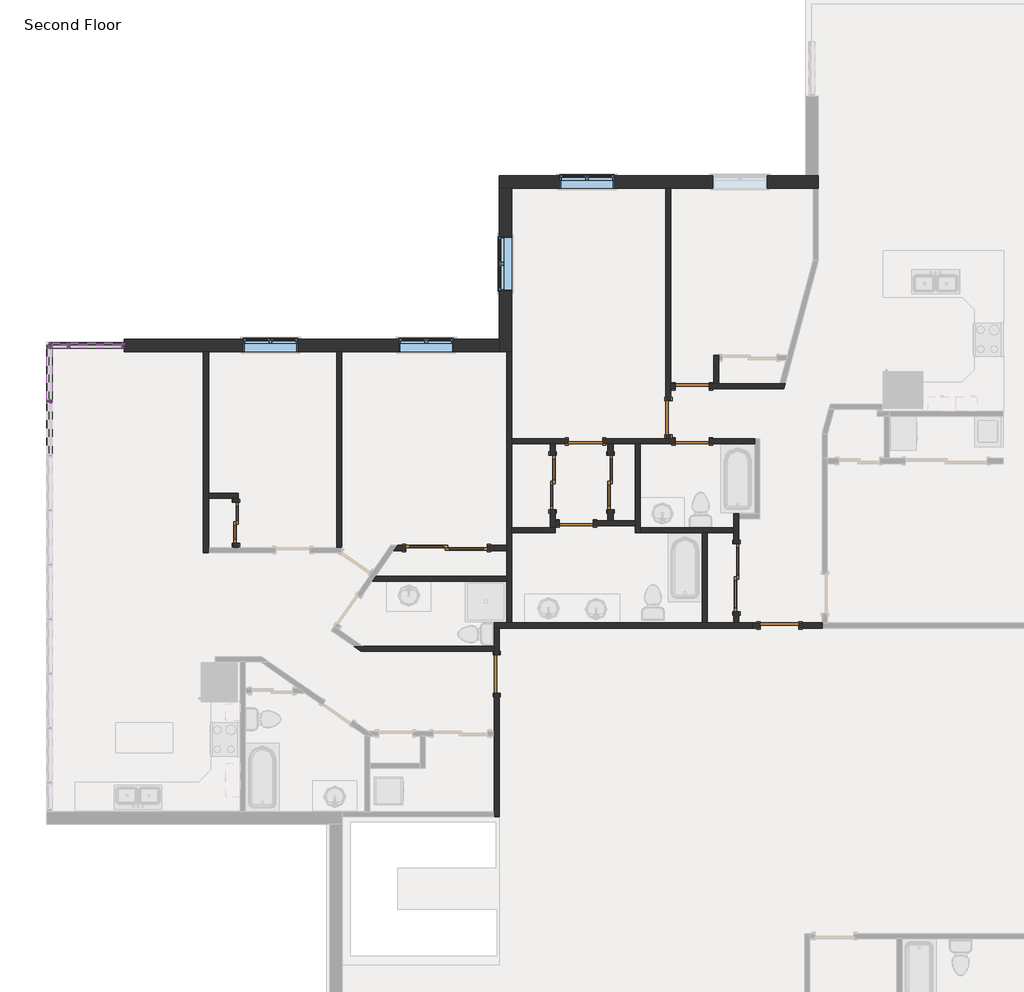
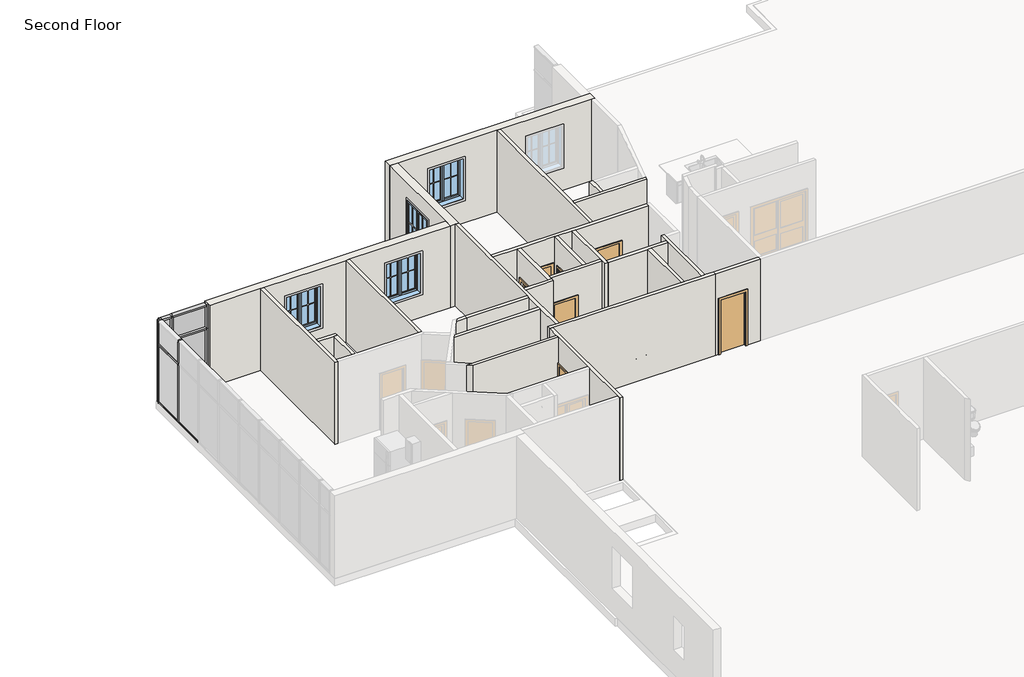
# One storey, part 8 of 17: 27 walls, 19 members, 12 doors, 4 plates, 4 windows.
"""IFC4 building model written with IfcOpenShell, lengths in millimetres."""

from ifc_helpers import new_model, si_unit, frame, origin, place, context, project, spatial, polyline, outline, extrude, faceted_brep, transform, mapped, element, save
from components import door_d8f5dbb5, door_f2b275c1, door_825b8444, door_c29894e6, door_88c23cd7, door_900f836f, door_2e7ec8be, door_caaf2a11, rectangular_mullion_rectangular_mullion_1_fa3625a1, rectangular_mullion_rectangular_mullion_1_7cbf0b94, rectangular_mullion_rectangular_mullion_1_6186cc23, rectangular_mullion_rectangular_mullion_1_049a2e78, rectangular_mullion_rectangular_mullion_1_a50b3cda, rectangular_mullion_rectangular_mullion_1_5cd4c5ac, rectangular_mullion_rectangular_mullion_1_64aff199, rectangular_mullion_rectangular_mullion_1_b6c962ab, system_panel_glazed_0ed27d1d, system_panel_glazed_134bacdb, system_panel_glazed_a3383988, system_panel_glazed_d9a092fd, window_33528cc2

model = new_model("IFC4")

# Units and contexts
model_context = context("Model", 3, world=origin())
ifc_project = project(units=[si_unit("LENGTHUNIT", "METRE", prefix="MILLI")], contexts=[model_context])

# Site, building, storey
site = spatial("IfcSite", under=ifc_project)
building = spatial("IfcBuilding", under=site)
storey = spatial("IfcBuildingStorey", under=building, Name="Second Floor", Elevation=3048.0)

# Doors
placement = place(None, origin())
door_shape = door_d8f5dbb5(model_context)
element("IfcDoor", 1, ObjectType="Single-Flush : 30\" x 80\"", at=placement, inside=storey, context=model_context, shape_type="MappedRepresentation", body=[
    mapped(door_shape, transform((12409.9063982, 4588.2091714, 3048.0), x_axis=(-1.0, 0.0, 0.0), y_axis=(0.0, -1.0, 0.0), z_axis=(0.0, 0.0, 1.0))),
])
door_2_shape = door_f2b275c1(model_context)
element("IfcDoor", 2, ObjectType="Single-Flush : 30\" x 80\"", at=placement, inside=storey, context=model_context, shape_type="MappedRepresentation", body=[
    mapped(door_2_shape, transform((15004.9379006, 7654.5108545, 3048.0), x_axis=(-1.0, 0.0, 0.0), y_axis=(0.0, -1.0, 0.0), z_axis=(0.0, 0.0, 1.0))),
])
element("IfcDoor", 3, ObjectType="Single-Flush : 30\" x 80\"", at=placement, inside=storey, context=model_context, shape_type="MappedRepresentation", body=[
    mapped(door_2_shape, transform((14468.0674417, 6956.8936958, 3048.0), x_axis=(0.0, -1.0, 0.0), y_axis=(1.0, 0.0, 0.0), z_axis=(0.0, 0.0, 1.0))),
])
element("IfcDoor", 4, ObjectType="Single-Flush : 30\" x 80\"", at=placement, inside=storey, context=model_context, shape_type="MappedRepresentation", body=[
    mapped(door_2_shape, transform((12612.1535557, 6423.4936958, 3048.0), x_axis=(1.0, 0.0, 0.0), y_axis=(0.0, 1.0, 0.0), z_axis=(0.0, 0.0, 1.0))),
])
element("IfcDoor", 5, ObjectType="Single-Flush : 30\" x 80\"", at=placement, inside=storey, context=model_context, shape_type="MappedRepresentation", body=[
    mapped(door_2_shape, transform((15001.4674417, 6423.4936958, 3048.0), x_axis=(1.0, 0.0, 0.0), y_axis=(0.0, 1.0, 0.0), z_axis=(0.0, 0.0, 1.0))),
])
door_3_shape = door_825b8444(model_context)
element("IfcDoor", 6, ObjectType="Single-Flush : 34\" x 80\"", at=placement, inside=storey, context=model_context, shape_type="MappedRepresentation", body=[
    mapped(door_3_shape, transform((16954.6993195, 2302.2091714, 3048.0), x_axis=(-1.0, 0.0, 0.0), y_axis=(0.0, -1.0, 0.0), z_axis=(0.0, 0.0, 1.0))),
])
door_4_shape = door_c29894e6(model_context)
element("IfcDoor", 7, ObjectType="Single-Flush : 34\" x 80\"", at=placement, inside=storey, context=model_context, shape_type="MappedRepresentation", body=[
    mapped(door_4_shape, transform((10626.433999, 1220.4185137, 3048.0), x_axis=(0.0, 1.0, 0.0), y_axis=(-1.0, 0.0, 0.0), z_axis=(0.0, 0.0, 1.0))),
])
door_5_shape = door_88c23cd7(model_context)
element("IfcDoor", 8, ObjectType="Sliding-Closet : 36\" x 80\"", at=placement, inside=storey, context=model_context, shape_type="MappedRepresentation", body=[
    mapped(door_5_shape, transform((4658.4503923, 4599.0838873, 3048.0), x_axis=(0.0, -1.0, 0.0), y_axis=(1.0, 0.0, 0.0), z_axis=(0.0, 0.0, 1.0))),
])
door_6_shape = door_900f836f(model_context)
element("IfcDoor", 9, ObjectType="Sliding-Closet : 48\" x 80\"", at=placement, inside=storey, context=model_context, shape_type="MappedRepresentation", body=[
    mapped(door_6_shape, transform((11749.5063982, 5505.8514336, 3048.0), x_axis=(0.0, -1.0, 0.0), y_axis=(1.0, 0.0, 0.0), z_axis=(0.0, 0.0, 1.0))),
])
element("IfcDoor", 10, ObjectType="Sliding-Closet : 48\" x 80\"", at=placement, inside=storey, context=model_context, shape_type="MappedRepresentation", body=[
    mapped(door_6_shape, transform((13297.9535557, 5505.8514336, 3048.0), x_axis=(0.0, 1.0, 0.0), y_axis=(-1.0, 0.0, 0.0), z_axis=(0.0, 0.0, 1.0))),
])
door_7_shape = door_2e7ec8be(model_context)
element("IfcDoor", 11, ObjectType="Sliding-Closet : 60\" x 80\"", at=placement, inside=storey, context=model_context, shape_type="MappedRepresentation", body=[
    mapped(door_7_shape, transform((15862.4993195, 3369.0091714, 3048.0), x_axis=(0.0, -1.0, 0.0), y_axis=(1.0, 0.0, 0.0), z_axis=(0.0, 0.0, 1.0))),
])
door_8_shape = door_caaf2a11(model_context)
element("IfcDoor", 12, ObjectType="Sliding-Closet : 72\" x 80\"", at=placement, inside=storey, context=model_context, shape_type="MappedRepresentation", body=[
    mapped(door_8_shape, transform((9498.6267396, 3910.2829071, 3048.0), x_axis=(1.0, 0.0, 0.0), y_axis=(0.0, 1.0, 0.0), z_axis=(0.0, 0.0, 1.0))),
])

# Members
rectangular_mullion_rectangular_mullion_1_shape = rectangular_mullion_rectangular_mullion_1_fa3625a1(model_context)
element("IfcMember", 13, ObjectType="Rectangular Mullion : Rectangular Mullion 1", at=placement, inside=storey, context=model_context, shape_type="MappedRepresentation", body=[
    mapped(rectangular_mullion_rectangular_mullion_1_shape, transform((1069.5831156, 8571.3427849, 6096.0), x_axis=(0.0, 0.0, 1.0), y_axis=(0.0, 1.0, 0.0), z_axis=(-1.0, 0.0, 0.0))),
])
element("IfcMember", 14, ObjectType="Rectangular Mullion : Rectangular Mullion 1", at=placement, inside=storey, context=model_context, shape_type="MappedRepresentation", body=[
    mapped(rectangular_mullion_rectangular_mullion_1_shape, transform((2225.2831159, 8571.3427849, 3048.0), x_axis=(0.0, 0.0, -1.0), y_axis=(0.0, 1.0, 0.0), z_axis=(1.0, 0.0, 0.0))),
])
element("IfcMember", 15, ObjectType="Rectangular Mullion : Rectangular Mullion 1", at=placement, inside=storey, context=model_context, shape_type="MappedRepresentation", body=[
    mapped(rectangular_mullion_rectangular_mullion_1_shape, transform((612.3831159, 8507.8427849, 3048.0), x_axis=(0.0, 0.0, -1.0), y_axis=(-1.0, 0.0, 0.0), z_axis=(0.0, 1.0, 0.0))),
])
element("IfcMember", 16, ObjectType="Rectangular Mullion : Rectangular Mullion 1", at=placement, inside=storey, context=model_context, shape_type="MappedRepresentation", body=[
    mapped(rectangular_mullion_rectangular_mullion_1_shape, transform((612.3831159, 7288.6427846, 3048.0), x_axis=(0.0, 0.0, -1.0), y_axis=(-1.0, 0.0, 0.0), z_axis=(0.0, 1.0, 0.0))),
])
rectangular_mullion_rectangular_mullion_1_2_shape = rectangular_mullion_rectangular_mullion_1_7cbf0b94(model_context)
element("IfcMember", 17, ObjectType="Rectangular Mullion : Rectangular Mullion 1", at=placement, inside=storey, context=model_context, shape_type="MappedRepresentation", body=[
    mapped(rectangular_mullion_rectangular_mullion_1_2_shape, transform((1069.5831156, 8571.3427849, 5213.35), x_axis=(0.0, 0.0, 1.0), y_axis=(0.0, 1.0, 0.0), z_axis=(-1.0, 0.0, 0.0))),
])
element("IfcMember", 18, ObjectType="Rectangular Mullion : Rectangular Mullion 1", at=placement, inside=storey, context=model_context, shape_type="MappedRepresentation", body=[
    mapped(rectangular_mullion_rectangular_mullion_1_2_shape, transform((612.3831159, 7352.1427846, 5213.35), x_axis=(0.0, 0.0, 1.0), y_axis=(-1.0, 0.0, 0.0), z_axis=(0.0, -1.0, 0.0))),
])
rectangular_mullion_rectangular_mullion_1_3_shape = rectangular_mullion_rectangular_mullion_1_6186cc23(model_context)
element("IfcMember", 19, ObjectType="Rectangular Mullion : Rectangular Mullion 1", at=placement, inside=storey, context=model_context, shape_type="MappedRepresentation", body=[
    mapped(rectangular_mullion_rectangular_mullion_1_3_shape, transform((1037.8331156, 8571.3427849, 3048.0), x_axis=(-1.0, 0.0, 0.0), y_axis=(0.0, 1.0, 0.0), z_axis=(0.0, 0.0, -1.0))),
])
element("IfcMember", 20, ObjectType="Rectangular Mullion : Rectangular Mullion 1", at=placement, inside=storey, context=model_context, shape_type="MappedRepresentation", body=[
    mapped(rectangular_mullion_rectangular_mullion_1_3_shape, transform((612.3831159, 7320.3927846, 3048.0), x_axis=(0.0, -1.0, 0.0), y_axis=(-1.0, 0.0, 0.0), z_axis=(0.0, 0.0, -1.0))),
])
rectangular_mullion_rectangular_mullion_1_4_shape = rectangular_mullion_rectangular_mullion_1_049a2e78(model_context)
element("IfcMember", 21, ObjectType="Rectangular Mullion : Rectangular Mullion 1", at=placement, inside=storey, context=model_context, shape_type="MappedRepresentation", body=[
    mapped(rectangular_mullion_rectangular_mullion_1_4_shape, transform((1037.8331156, 8571.3427849, 5213.35), x_axis=(-1.0, 0.0, 0.0), y_axis=(0.0, 1.0, 0.0), z_axis=(0.0, 0.0, -1.0))),
])
element("IfcMember", 22, ObjectType="Rectangular Mullion : Rectangular Mullion 1", at=placement, inside=storey, context=model_context, shape_type="MappedRepresentation", body=[
    mapped(rectangular_mullion_rectangular_mullion_1_4_shape, transform((612.3831159, 7320.3927846, 5213.35), x_axis=(0.0, -1.0, 0.0), y_axis=(-1.0, 0.0, 0.0), z_axis=(0.0, 0.0, -1.0))),
])
rectangular_mullion_rectangular_mullion_1_5_shape = rectangular_mullion_rectangular_mullion_1_a50b3cda(model_context)
element("IfcMember", 23, ObjectType="Rectangular Mullion : Rectangular Mullion 1", at=placement, inside=storey, context=model_context, shape_type="MappedRepresentation", body=[
    mapped(rectangular_mullion_rectangular_mullion_1_5_shape, transform((612.3831159, 8571.3427849, 3048.0), x_axis=(-1.0, 0.0, 0.0), y_axis=(0.0, 1.0, 0.0), z_axis=(0.0, 0.0, -1.0))),
])
rectangular_mullion_rectangular_mullion_1_6_shape = rectangular_mullion_rectangular_mullion_1_5cd4c5ac(model_context)
element("IfcMember", 24, ObjectType="Rectangular Mullion : Rectangular Mullion 1", at=placement, inside=storey, context=model_context, shape_type="MappedRepresentation", body=[
    mapped(rectangular_mullion_rectangular_mullion_1_6_shape, transform((612.3831159, 8571.3427849, 5213.35), x_axis=(-1.0, 0.0, 0.0), y_axis=(0.0, 1.0, 0.0), z_axis=(0.0, 0.0, -1.0))),
])
element("IfcMember", 25, ObjectType="Rectangular Mullion : Rectangular Mullion 1", at=placement, inside=storey, context=model_context, shape_type="MappedRepresentation", body=[
    mapped(rectangular_mullion_rectangular_mullion_1_6_shape, transform((2288.7831159, 8571.3427849, 6096.0), x_axis=(1.0, 0.0, 0.0), y_axis=(0.0, 1.0, 0.0), z_axis=(0.0, 0.0, 1.0))),
])
element("IfcMember", 26, ObjectType="Rectangular Mullion : Rectangular Mullion 1", at=placement, inside=storey, context=model_context, shape_type="MappedRepresentation", body=[
    mapped(rectangular_mullion_rectangular_mullion_1_6_shape, transform((612.3831159, 8571.3427849, 6096.0), x_axis=(0.0, 1.0, 0.0), y_axis=(-1.0, 0.0, 0.0), z_axis=(0.0, 0.0, 1.0))),
])
element("IfcMember", 27, ObjectType="Rectangular Mullion : Rectangular Mullion 1", at=placement, inside=storey, context=model_context, shape_type="MappedRepresentation", body=[
    mapped(rectangular_mullion_rectangular_mullion_1_5_shape, transform((2288.7831159, 8571.3427849, 5213.35), x_axis=(1.0, 0.0, 0.0), y_axis=(0.0, 1.0, 0.0), z_axis=(0.0, 0.0, 1.0))),
])
element("IfcMember", 28, ObjectType="Rectangular Mullion : Rectangular Mullion 1", at=placement, inside=storey, context=model_context, shape_type="MappedRepresentation", body=[
    mapped(rectangular_mullion_rectangular_mullion_1_5_shape, transform((612.3831159, 8571.3427849, 5213.35), x_axis=(0.0, 1.0, 0.0), y_axis=(-1.0, 0.0, 0.0), z_axis=(0.0, 0.0, 1.0))),
])
rectangular_mullion_rectangular_mullion_1_7_shape = rectangular_mullion_rectangular_mullion_1_64aff199(model_context)
element("IfcMember", 29, ObjectType="Rectangular Mullion : Rectangular Mullion 1", at=placement, inside=storey, context=model_context, shape_type="MappedRepresentation", body=[
    mapped(rectangular_mullion_rectangular_mullion_1_7_shape, transform((675.8831159, 8571.3427849, 6096.0), x_axis=(0.0, 0.0, 1.0), y_axis=(0.0, 1.0, 0.0), z_axis=(-1.0, 0.0, 0.0))),
])
element("IfcMember", 30, ObjectType="Rectangular Mullion : Rectangular Mullion 1", at=placement, inside=storey, context=model_context, shape_type="MappedRepresentation", body=[
    mapped(rectangular_mullion_rectangular_mullion_1_7_shape, transform((1006.0831156, 8571.3427849, 3048.0), x_axis=(0.0, 0.0, -1.0), y_axis=(0.0, 1.0, 0.0), z_axis=(1.0, 0.0, 0.0))),
])
rectangular_mullion_rectangular_mullion_1_8_shape = rectangular_mullion_rectangular_mullion_1_b6c962ab(model_context)
element("IfcMember", 31, ObjectType="Rectangular Mullion : Rectangular Mullion 1", at=placement, inside=storey, context=model_context, shape_type="MappedRepresentation", body=[
    mapped(rectangular_mullion_rectangular_mullion_1_8_shape, transform((675.8831159, 8571.3427849, 5213.35), x_axis=(0.0, 0.0, 1.0), y_axis=(0.0, 1.0, 0.0), z_axis=(-1.0, 0.0, 0.0))),
])

# Plates
system_panel_glazed_shape = system_panel_glazed_0ed27d1d(model_context)
element("IfcPlate", 32, ObjectType="System Panel : Glazed", at=placement, inside=storey, context=model_context, shape_type="MappedRepresentation", body=[
    mapped(system_panel_glazed_shape, transform((1647.4331158, 8571.3427849, 3111.5), x_axis=(-1.0, 0.0, 0.0), y_axis=(0.0, -1.0, 0.0), z_axis=(0.0, 0.0, 1.0))),
])
system_panel_glazed_2_shape = system_panel_glazed_134bacdb(model_context)
element("IfcPlate", 33, ObjectType="System Panel : Glazed", at=placement, inside=storey, context=model_context, shape_type="MappedRepresentation", body=[
    mapped(system_panel_glazed_2_shape, transform((1647.4331158, 8571.3427849, 5245.1), x_axis=(-1.0, 0.0, 0.0), y_axis=(0.0, -1.0, 0.0), z_axis=(0.0, 0.0, 1.0))),
])
system_panel_glazed_3_shape = system_panel_glazed_a3383988(model_context)
element("IfcPlate", 34, ObjectType="System Panel : Glazed", at=placement, inside=storey, context=model_context, shape_type="MappedRepresentation", body=[
    mapped(system_panel_glazed_3_shape, transform((840.9831158, 8571.3427849, 3111.5), x_axis=(-1.0, 0.0, 0.0), y_axis=(0.0, -1.0, 0.0), z_axis=(0.0, 0.0, 1.0))),
])
system_panel_glazed_4_shape = system_panel_glazed_d9a092fd(model_context)
element("IfcPlate", 35, ObjectType="System Panel : Glazed", at=placement, inside=storey, context=model_context, shape_type="MappedRepresentation", body=[
    mapped(system_panel_glazed_4_shape, transform((840.9831158, 8571.3427849, 5245.1), x_axis=(-1.0, 0.0, 0.0), y_axis=(0.0, -1.0, 0.0), z_axis=(0.0, 0.0, 1.0))),
])

# Walls
element("IfcWall", 36, ObjectType="Exterior - Brick on Wood Stud", at=placement, inside=storey, context=model_context, shape_type="Brep", body=[
    faceted_brep([(17820.1121608, 12370.2302849, 3048.0), (17537.5371608, 12370.2302849, 3048.0), (10681.8956159, 12370.2302849, 3048.0), (10681.8956159, 12370.2302849, 6096.0), (17537.5371608, 12370.2302849, 6096.0), (17820.1121608, 12370.2302849, 6096.0), (13255.2252788, 12370.2302849, 5486.4), (12036.0252788, 12370.2302849, 5486.4), (12036.0252788, 12370.2302849, 3962.4), (13255.2252788, 12370.2302849, 3962.4), (16683.0460512, 12370.2302849, 5486.4), (15463.8460512, 12370.2302849, 5486.4), (15463.8460512, 12370.2302849, 3962.4), (16683.0460512, 12370.2302849, 3962.4), (17820.1121608, 12087.6552849, 3048.0), (17820.1121608, 12087.6552849, 6096.0), (17705.8121608, 12087.6552849, 6096.0), (14525.2174417, 12087.6552849, 6096.0), (14410.9174417, 12087.6552849, 6096.0), (10964.4706159, 12087.6552849, 6096.0), (10681.8956159, 12087.6552849, 6096.0), (10681.8956159, 12087.6552849, 3048.0), (10964.4706159, 12087.6552849, 3048.0), (14410.9174417, 12087.6552849, 3048.0), (14525.2174417, 12087.6552849, 3048.0), (17705.8121608, 12087.6552849, 3048.0), (13255.2252788, 12087.6552849, 5486.4), (13255.2252788, 12087.6552849, 3962.4), (12036.0252788, 12087.6552849, 3962.4), (12036.0252788, 12087.6552849, 5486.4), (16683.0460512, 12087.6552849, 5486.4), (16683.0460512, 12087.6552849, 3962.4), (15463.8460512, 12087.6552849, 3962.4), (15463.8460512, 12087.6552849, 5486.4)], [[[0, 1, 2, 3, 4, 5], [6, 7, 8, 9], [10, 11, 12, 13]], [[14, 15, 16, 17, 18, 19, 20, 21, 22, 23, 24, 25], [26, 27, 28, 29], [30, 31, 32, 33]], [[2, 1, 0, 14, 25, 24, 23, 22, 21]], [[5, 4, 3, 20, 19, 18, 17, 16, 15]], [[27, 26, 6, 9]], [[28, 27, 9, 8]], [[29, 28, 8, 7]], [[26, 29, 7, 6]], [[31, 30, 10, 13]], [[32, 31, 13, 12]], [[33, 32, 12, 11]], [[30, 33, 11, 10]], [[0, 5, 15, 14]], [[3, 2, 21, 20]]]),
])
element("IfcWall", 37, ObjectType="Exterior - Brick on Wood Stud", at=placement, inside=storey, context=model_context, shape_type="Brep", body=[
    faceted_brep([(10681.8956159, 12087.6552849, 3048.0), (10681.8956159, 8712.6302849, 3048.0), (10681.8956159, 8430.0552849, 3048.0), (10681.8956159, 8430.0552849, 6096.0), (10681.8956159, 8712.6302849, 6096.0), (10681.8956159, 12087.6552849, 6096.0), (10681.8956159, 11009.7427849, 5486.4), (10681.8956159, 9790.5427849, 5486.4), (10681.8956159, 9790.5427849, 3962.4), (10681.8956159, 11009.7427849, 3962.4), (10964.4706159, 12087.6552849, 3048.0), (10964.4706159, 12087.6552849, 6096.0), (10964.4706159, 8430.0552849, 6096.0), (10964.4706159, 8430.0552849, 3048.0), (10964.4706159, 11009.7427849, 5486.4), (10964.4706159, 11009.7427849, 3962.4), (10964.4706159, 9790.5427849, 3962.4), (10964.4706159, 9790.5427849, 5486.4), (10850.1706159, 8430.0552849, 3048.0), (10850.1706159, 8430.0552849, 6096.0)], [[[0, 1, 2, 3, 4, 5], [6, 7, 8, 9]], [[10, 11, 12, 13], [14, 15, 16, 17]], [[2, 1, 0, 10, 13, 18]], [[5, 4, 3, 19, 12, 11]], [[15, 14, 6, 9]], [[16, 15, 9, 8]], [[17, 16, 8, 7]], [[14, 17, 7, 6]], [[3, 2, 18, 13, 12, 19]], [[0, 5, 11, 10]]]),
])
element("IfcWall", 38, ObjectType="Exterior - Brick on Wood Stud", at=placement, inside=storey, context=model_context, shape_type="Brep", body=[
    faceted_brep([(10681.8956159, 8712.6302849, 3048.0), (2288.7831159, 8712.6302849, 3048.0), (2288.7831159, 8712.6302849, 6096.0), (10681.8956159, 8712.6302849, 6096.0), (6168.7897364, 8712.6302849, 5486.4), (4949.5897364, 8712.6302849, 5486.4), (4949.5897364, 8712.6302849, 3962.4), (6168.7897364, 8712.6302849, 3962.4), (9654.7831159, 8712.6302849, 5486.4), (8435.5831159, 8712.6302849, 5486.4), (8435.5831159, 8712.6302849, 3962.4), (9654.7831159, 8712.6302849, 3962.4), (10681.8956159, 8430.0552849, 3048.0), (10681.8956159, 8430.0552849, 6096.0), (7160.5967971, 8430.0552849, 6096.0), (7046.2967971, 8430.0552849, 6096.0), (4173.6826756, 8430.0552849, 6096.0), (4059.3826756, 8430.0552849, 6096.0), (2288.7831159, 8430.0552849, 6096.0), (2288.7831159, 8430.0552849, 3048.0), (4059.3826756, 8430.0552849, 3048.0), (4173.6826756, 8430.0552849, 3048.0), (7046.2967971, 8430.0552849, 3048.0), (7160.5967971, 8430.0552849, 3048.0), (6168.7897364, 8430.0552849, 5486.4), (6168.7897364, 8430.0552849, 3962.4), (4949.5897364, 8430.0552849, 3962.4), (4949.5897364, 8430.0552849, 5486.4), (9654.7831159, 8430.0552849, 5486.4), (9654.7831159, 8430.0552849, 3962.4), (8435.5831159, 8430.0552849, 3962.4), (8435.5831159, 8430.0552849, 5486.4)], [[[0, 1, 2, 3], [4, 5, 6, 7], [8, 9, 10, 11]], [[12, 13, 14, 15, 16, 17, 18, 19, 20, 21, 22, 23], [24, 25, 26, 27], [28, 29, 30, 31]], [[1, 0, 12, 23, 22, 21, 20, 19]], [[2, 1, 19, 18]], [[3, 2, 18, 17, 16, 15, 14, 13]], [[25, 24, 4, 7]], [[26, 25, 7, 6]], [[27, 26, 6, 5]], [[24, 27, 5, 4]], [[29, 28, 8, 11]], [[30, 29, 11, 10]], [[31, 30, 10, 9]], [[28, 31, 9, 8]], [[0, 3, 13, 12]]]),
])
element("IfcWall", 39, ObjectType="Interior - 4 1/2\" Partition", at=placement, inside=storey, context=model_context, shape_type="Brep", body=[
    faceted_brep([(10964.4706159, 2359.3591714, 3048.0), (10964.4706159, 4378.6591714, 3048.0), (10964.4706159, 4492.9591714, 3048.0), (10964.4706159, 6366.3436958, 3048.0), (10964.4706159, 6480.6436958, 3048.0), (10964.4706159, 8430.0552849, 3048.0), (10964.4706159, 8430.0552849, 6096.0), (10964.4706159, 6480.6436958, 6096.0), (10964.4706159, 6366.3436958, 6096.0), (10964.4706159, 4492.9591714, 6096.0), (10964.4706159, 4378.6591714, 6096.0), (10964.4706159, 2359.3591714, 6096.0), (10850.1706159, 2359.3591714, 3048.0), (10850.1706159, 2359.3591714, 6096.0), (10850.1706159, 3289.4624849, 6096.0), (10850.1706159, 3403.7624849, 6096.0), (10850.1706159, 3980.1329071, 6096.0), (10850.1706159, 4094.4329071, 6096.0), (10850.1706159, 8430.0552849, 6096.0), (10850.1706159, 8430.0552849, 3048.0), (10850.1706159, 4094.4329071, 3048.0), (10850.1706159, 3980.1329071, 3048.0), (10850.1706159, 3403.7624849, 3048.0), (10850.1706159, 3289.4624849, 3048.0)], [[[0, 1, 2, 3, 4, 5, 6, 7, 8, 9, 10, 11]], [[12, 13, 14, 15, 16, 17, 18, 19, 20, 21, 22, 23]], [[5, 4, 3, 2, 1, 0, 12, 23, 22, 21, 20, 19]], [[11, 10, 9, 8, 7, 6, 18, 17, 16, 15, 14, 13]], [[0, 11, 13, 12]], [[6, 5, 19, 18]]]),
])
element("IfcWall", 40, ObjectType="Interior - 4 1/2\" Partition", at=placement, inside=storey, context=model_context, shape_type="Brep", body=[
    faceted_brep([(10569.283999, 2245.0591714, 3048.0), (10569.283999, 1836.3685137, 3048.0), (10569.283999, 1722.0685137, 3048.0), (10569.283999, 1652.2185137, 3048.0), (10569.283999, 1652.2185137, 5080.0), (10569.283999, 788.6185137, 5080.0), (10569.283999, 788.6185137, 3048.0), (10569.283999, -58.9797775, 3048.0), (10569.283999, -173.2797775, 3048.0), (10569.283999, -1864.031369, 3048.0), (10569.283999, -1978.331369, 3048.0), (10569.283999, -1978.331369, 6096.0), (10569.283999, -1864.031369, 6096.0), (10569.283999, -173.2797775, 6096.0), (10569.283999, -58.9797775, 6096.0), (10569.283999, 1722.0685137, 6096.0), (10569.283999, 1836.3685137, 6096.0), (10569.283999, 2245.0591714, 6096.0), (10683.583999, 1652.2185137, 5080.0), (10683.583999, 1652.2185137, 3048.0), (10683.583999, 2245.0591714, 3048.0), (10683.583999, 2245.0591714, 6096.0), (10683.583999, -1978.331369, 6096.0), (10683.583999, -1978.331369, 3048.0), (10683.583999, 788.6185137, 3048.0), (10683.583999, 788.6185137, 5080.0)], [[[0, 1, 2, 3, 4, 5, 6, 7, 8, 9, 10, 11, 12, 13, 14, 15, 16, 17]], [[18, 19, 20, 21, 22, 23, 24, 25]], [[24, 23, 10, 9, 8, 7, 6]], [[20, 19, 3, 2, 1, 0]], [[17, 16, 15, 14, 13, 12, 11, 22, 21]], [[4, 3, 19, 18]], [[5, 4, 18, 25]], [[6, 5, 25, 24]], [[11, 10, 23, 22]], [[0, 17, 21, 20]]]),
])
element("IfcWall", 41, ObjectType="Interior - 4 1/2\" Partition", at=placement, inside=storey, context=model_context, shape_type="SweptSolid", body=[
    extrude(outline(polyline([(3048.0, 16345.0993195), (3048.0, 16522.8993195), (5080.0, 16522.8993195), (5080.0, 17386.4993195), (3048.0, 17386.4993195), (3048.0, 17913.5493195), (6096.0, 17913.5493195), (6096.0, 16345.0993195), (3048.0, 16345.0993195)])), frame((0.0, 2245.0591714, 0.0), z_axis=(0.0, 1.0, 0.0), x_axis=(0.0, 0.0, 1.0)), (0.0, 0.0, 1.0), 114.3),
])
element("IfcWall", 42, ObjectType="Interior - 4 1/2\" Partition", at=placement, inside=storey, context=model_context, shape_type="Brep", body=[
    faceted_brep([(16345.0993195, 2359.3591714, 3048.0), (16046.6493195, 2359.3591714, 3048.0), (15932.3493195, 2359.3591714, 3048.0), (15335.4493195, 2359.3591714, 3048.0), (15221.1493195, 2359.3591714, 3048.0), (10964.4706159, 2359.3591714, 3048.0), (10850.1706159, 2359.3591714, 3048.0), (10569.283999, 2359.3591714, 3048.0), (10569.283999, 2359.3591714, 6096.0), (10850.1706159, 2359.3591714, 6096.0), (10964.4706159, 2359.3591714, 6096.0), (15221.1493195, 2359.3591714, 6096.0), (15335.4493195, 2359.3591714, 6096.0), (15932.3493195, 2359.3591714, 6096.0), (16046.6493195, 2359.3591714, 6096.0), (16345.0993195, 2359.3591714, 6096.0), (16345.0993195, 2245.0591714, 3048.0), (16345.0993195, 2245.0591714, 6096.0), (10683.583999, 2245.0591714, 6096.0), (10569.283999, 2245.0591714, 6096.0), (10569.283999, 2245.0591714, 3048.0), (10683.583999, 2245.0591714, 3048.0)], [[[0, 1, 2, 3, 4, 5, 6, 7, 8, 9, 10, 11, 12, 13, 14, 15]], [[16, 17, 18, 19, 20, 21]], [[7, 6, 5, 4, 3, 2, 1, 0, 16, 21, 20]], [[15, 14, 13, 12, 11, 10, 9, 8, 19, 18, 17]], [[0, 15, 17, 16]], [[8, 7, 20, 19]]]),
])
element("IfcWall", 43, ObjectType="Interior - 4 1/2\" Partition", at=placement, inside=storey, context=model_context, shape_type="SweptSolid", body=[
    extrude(outline(polyline([(15335.4493195, 4378.6591714), (15335.4493195, 2359.3591714), (15221.1493195, 2359.3591714), (15221.1493195, 4378.6591714), (15335.4493195, 4378.6591714)])), frame((0.0, 0.0, 3048.0), z_axis=(0.0, 0.0, 1.0), x_axis=(1.0, 0.0, 0.0)), (0.0, 0.0, 1.0), 3048.0),
])
element("IfcWall", 44, ObjectType="Interior - 4 1/2\" Partition", at=placement, inside=storey, context=model_context, shape_type="Brep", body=[
    faceted_brep([(13837.7035557, 4378.6591714, 3048.0), (15221.1493195, 4378.6591714, 3048.0), (15335.4493195, 4378.6591714, 3048.0), (15932.3493195, 4378.6591714, 3048.0), (15932.3493195, 4378.6591714, 6096.0), (15335.4493195, 4378.6591714, 6096.0), (15221.1493195, 4378.6591714, 6096.0), (13837.7035557, 4378.6591714, 6096.0), (13837.7035557, 4492.9591714, 3048.0), (13837.7035557, 4492.9591714, 6096.0), (15932.3493195, 4492.9591714, 6096.0), (15932.3493195, 4492.9591714, 3048.0)], [[[0, 1, 2, 3, 4, 5, 6, 7]], [[8, 9, 10, 11]], [[3, 2, 1, 0, 8, 11]], [[7, 6, 5, 4, 10, 9]], [[0, 7, 9, 8]], [[4, 3, 11, 10]]]),
])
element("IfcWall", 45, ObjectType="Interior - 4 1/2\" Partition", at=placement, inside=storey, context=model_context, shape_type="Brep", body=[
    faceted_brep([(15932.3493195, 2607.0091714, 5080.0), (15932.3493195, 2607.0091714, 3048.0), (15932.3493195, 2359.3591714, 3048.0), (15932.3493195, 2359.3591714, 6096.0), (15932.3493195, 4378.6591714, 6096.0), (15932.3493195, 4492.9591714, 6096.0), (15932.3493195, 4807.4366582, 6096.0), (15932.3493195, 4807.4366582, 3048.0), (15932.3493195, 4492.9591714, 3048.0), (15932.3493195, 4378.6591714, 3048.0), (15932.3493195, 4131.0091714, 3048.0), (15932.3493195, 4131.0091714, 5080.0), (16046.6493195, 2359.3591714, 3048.0), (16046.6493195, 2607.0091714, 3048.0), (16046.6493195, 2607.0091714, 5080.0), (16046.6493195, 4131.0091714, 5080.0), (16046.6493195, 4131.0091714, 3048.0), (16046.6493195, 4693.1366582, 3048.0), (16046.6493195, 4807.4366582, 3048.0), (16046.6493195, 4807.4366582, 6096.0), (16046.6493195, 4693.1366582, 6096.0), (16046.6493195, 2359.3591714, 6096.0)], [[[0, 1, 2, 3, 4, 5, 6, 7, 8, 9, 10, 11]], [[12, 13, 14, 15, 16, 17, 18, 19, 20, 21]], [[2, 1, 13, 12]], [[10, 9, 8, 7, 18, 17, 16]], [[6, 5, 4, 3, 21, 20, 19]], [[16, 15, 11, 10]], [[14, 13, 1, 0]], [[15, 14, 0, 11]], [[7, 6, 19, 18]], [[3, 2, 12, 21]]]),
])
element("IfcWall", 46, ObjectType="Interior - 4 1/2\" Partition", at=placement, inside=storey, context=model_context, shape_type="Brep", body=[
    faceted_brep([(16399.0583594, 6480.6436958, 3048.0), (15382.4674417, 6480.6436958, 3048.0), (15382.4674417, 6480.6436958, 5080.0), (14620.4674417, 6480.6436958, 5080.0), (14620.4674417, 6480.6436958, 3048.0), (14525.2174417, 6480.6436958, 3048.0), (14410.9174417, 6480.6436958, 3048.0), (12993.1535557, 6480.6436958, 3048.0), (12993.1535557, 6480.6436958, 5080.0), (12231.1535557, 6480.6436958, 5080.0), (12231.1535557, 6480.6436958, 3048.0), (10964.4706159, 6480.6436958, 3048.0), (10964.4706159, 6480.6436958, 6096.0), (14410.9174417, 6480.6436958, 6096.0), (14525.2174417, 6480.6436958, 6096.0), (16399.0583594, 6480.6436958, 6096.0), (15382.4674417, 6366.3436958, 5080.0), (15382.4674417, 6366.3436958, 3048.0), (16399.0583594, 6366.3436958, 3048.0), (16399.0583594, 6366.3436958, 6096.0), (13837.7035557, 6366.3436958, 6096.0), (13723.4035557, 6366.3436958, 6096.0), (13228.1035557, 6366.3436958, 6096.0), (13113.8035557, 6366.3436958, 6096.0), (11933.6563982, 6366.3436958, 6096.0), (11819.3563982, 6366.3436958, 6096.0), (10964.4706159, 6366.3436958, 6096.0), (10964.4706159, 6366.3436958, 3048.0), (11819.3563982, 6366.3436958, 3048.0), (11933.6563982, 6366.3436958, 3048.0), (12231.1535557, 6366.3436958, 3048.0), (12231.1535557, 6366.3436958, 5080.0), (12993.1535557, 6366.3436958, 5080.0), (12993.1535557, 6366.3436958, 3048.0), (13113.8035557, 6366.3436958, 3048.0), (13228.1035557, 6366.3436958, 3048.0), (13723.4035557, 6366.3436958, 3048.0), (13837.7035557, 6366.3436958, 3048.0), (14620.4674417, 6366.3436958, 3048.0), (14620.4674417, 6366.3436958, 5080.0)], [[[0, 1, 2, 3, 4, 5, 6, 7, 8, 9, 10, 11, 12, 13, 14, 15]], [[16, 17, 18, 19, 20, 21, 22, 23, 24, 25, 26, 27, 28, 29, 30, 31, 32, 33, 34, 35, 36, 37, 38, 39]], [[30, 29, 28, 27, 11, 10]], [[18, 17, 1, 0]], [[38, 37, 36, 35, 34, 33, 7, 6, 5, 4]], [[15, 14, 13, 12, 26, 25, 24, 23, 22, 21, 20, 19]], [[8, 7, 33, 32]], [[9, 8, 32, 31]], [[10, 9, 31, 30]], [[2, 1, 17, 16]], [[3, 2, 16, 39]], [[4, 3, 39, 38]], [[0, 15, 19, 18]], [[12, 11, 27, 26]]]),
])
element("IfcWall", 47, ObjectType="Interior - 4 1/2\" Partition", at=placement, inside=storey, context=model_context, shape_type="Brep", body=[
    faceted_brep([(13723.4035557, 6366.3436958, 3048.0), (13723.4035557, 4645.3591714, 3048.0), (13723.4035557, 4531.0591714, 3048.0), (13723.4035557, 4378.6591714, 3048.0), (13723.4035557, 4378.6591714, 6096.0), (13723.4035557, 4531.0591714, 6096.0), (13723.4035557, 4645.3591714, 6096.0), (13723.4035557, 6366.3436958, 6096.0), (13837.7035557, 6366.3436958, 3048.0), (13837.7035557, 6366.3436958, 6096.0), (13837.7035557, 4492.9591714, 6096.0), (13837.7035557, 4378.6591714, 6096.0), (13837.7035557, 4378.6591714, 3048.0), (13837.7035557, 4492.9591714, 3048.0)], [[[0, 1, 2, 3, 4, 5, 6, 7]], [[8, 9, 10, 11, 12, 13]], [[3, 2, 1, 0, 8, 13, 12]], [[7, 6, 5, 4, 11, 10, 9]], [[4, 3, 12, 11]], [[0, 7, 9, 8]]]),
])
element("IfcWall", 48, ObjectType="Interior - 4 1/2\" Partition", at=placement, inside=storey, context=model_context, shape_type="Brep", body=[
    faceted_brep([(10964.4706159, 4378.6591714, 3048.0), (11933.6563982, 4378.6591714, 3048.0), (11933.6563982, 4378.6591714, 6096.0), (10964.4706159, 4378.6591714, 6096.0), (10964.4706159, 4492.9591714, 3048.0), (10964.4706159, 4492.9591714, 6096.0), (11819.3563982, 4492.9591714, 6096.0), (11933.6563982, 4492.9591714, 6096.0), (11933.6563982, 4492.9591714, 3048.0), (11819.3563982, 4492.9591714, 3048.0)], [[[0, 1, 2, 3]], [[4, 5, 6, 7, 8, 9]], [[1, 0, 4, 9, 8]], [[3, 2, 7, 6, 5]], [[2, 1, 8, 7]], [[0, 3, 5, 4]]]),
])
element("IfcWall", 49, ObjectType="Interior - 4 1/2\" Partition", at=placement, inside=storey, context=model_context, shape_type="Brep", body=[
    faceted_brep([(11933.6563982, 4492.9591714, 3048.0), (11933.6563982, 4531.0591714, 3048.0), (11933.6563982, 4645.3591714, 3048.0), (11933.6563982, 4896.2514336, 3048.0), (11933.6563982, 4896.2514336, 5080.0), (11933.6563982, 6115.4514336, 5080.0), (11933.6563982, 6115.4514336, 3048.0), (11933.6563982, 6366.3436958, 3048.0), (11933.6563982, 6366.3436958, 6096.0), (11933.6563982, 4645.3591714, 6096.0), (11933.6563982, 4531.0591714, 6096.0), (11933.6563982, 4492.9591714, 6096.0), (11819.3563982, 4896.2514336, 5080.0), (11819.3563982, 4896.2514336, 3048.0), (11819.3563982, 4492.9591714, 3048.0), (11819.3563982, 4492.9591714, 6096.0), (11819.3563982, 6366.3436958, 6096.0), (11819.3563982, 6366.3436958, 3048.0), (11819.3563982, 6115.4514336, 3048.0), (11819.3563982, 6115.4514336, 5080.0)], [[[0, 1, 2, 3, 4, 5, 6, 7, 8, 9, 10, 11]], [[12, 13, 14, 15, 16, 17, 18, 19]], [[18, 17, 7, 6]], [[14, 13, 3, 2, 1, 0]], [[11, 10, 9, 8, 16, 15]], [[6, 5, 19, 18]], [[4, 3, 13, 12]], [[5, 4, 12, 19]], [[0, 11, 15, 14]], [[8, 7, 17, 16]]]),
])
element("IfcWall", 50, ObjectType="Interior - 4 1/2\" Partition", at=placement, inside=storey, context=model_context, shape_type="Brep", body=[
    faceted_brep([(11933.6563982, 4531.0591714, 3048.0), (12028.9063982, 4531.0591714, 3048.0), (12028.9063982, 4531.0591714, 5080.0), (12790.9063982, 4531.0591714, 5080.0), (12790.9063982, 4531.0591714, 3048.0), (13723.4035557, 4531.0591714, 3048.0), (13723.4035557, 4531.0591714, 6096.0), (11933.6563982, 4531.0591714, 6096.0), (12028.9063982, 4645.3591714, 5080.0), (12028.9063982, 4645.3591714, 3048.0), (11933.6563982, 4645.3591714, 3048.0), (11933.6563982, 4645.3591714, 6096.0), (13113.8035557, 4645.3591714, 6096.0), (13228.1035557, 4645.3591714, 6096.0), (13723.4035557, 4645.3591714, 6096.0), (13723.4035557, 4645.3591714, 3048.0), (13228.1035557, 4645.3591714, 3048.0), (13113.8035557, 4645.3591714, 3048.0), (12790.9063982, 4645.3591714, 3048.0), (12790.9063982, 4645.3591714, 5080.0)], [[[0, 1, 2, 3, 4, 5, 6, 7]], [[8, 9, 10, 11, 12, 13, 14, 15, 16, 17, 18, 19]], [[10, 9, 1, 0]], [[18, 17, 16, 15, 5, 4]], [[7, 6, 14, 13, 12, 11]], [[2, 1, 9, 8]], [[3, 2, 8, 19]], [[4, 3, 19, 18]], [[0, 7, 11, 10]], [[6, 5, 15, 14]]]),
])
element("IfcWall", 51, ObjectType="Interior - 4 1/2\" Partition", at=placement, inside=storey, context=model_context, shape_type="Brep", body=[
    faceted_brep([(14410.9174417, 6575.8936958, 5080.0), (14410.9174417, 6575.8936958, 3048.0), (14410.9174417, 6480.6436958, 3048.0), (14410.9174417, 6480.6436958, 6096.0), (14410.9174417, 12087.6552849, 6096.0), (14410.9174417, 12087.6552849, 3048.0), (14410.9174417, 7337.8936958, 3048.0), (14410.9174417, 7337.8936958, 5080.0), (14525.2174417, 6480.6436958, 3048.0), (14525.2174417, 6575.8936958, 3048.0), (14525.2174417, 6575.8936958, 5080.0), (14525.2174417, 7337.8936958, 5080.0), (14525.2174417, 7337.8936958, 3048.0), (14525.2174417, 7597.3608545, 3048.0), (14525.2174417, 7711.6608545, 3048.0), (14525.2174417, 12087.6552849, 3048.0), (14525.2174417, 12087.6552849, 6096.0), (14525.2174417, 7711.6608545, 6096.0), (14525.2174417, 7597.3608545, 6096.0), (14525.2174417, 6480.6436958, 6096.0)], [[[0, 1, 2, 3, 4, 5, 6, 7]], [[8, 9, 10, 11, 12, 13, 14, 15, 16, 17, 18, 19]], [[6, 5, 15, 14, 13, 12]], [[2, 1, 9, 8]], [[4, 3, 19, 18, 17, 16]], [[10, 9, 1, 0]], [[11, 10, 0, 7]], [[12, 11, 7, 6]], [[3, 2, 8, 19]], [[5, 4, 16, 15]]]),
])
element("IfcWall", 52, ObjectType="Interior - 4 1/2\" Partition", at=placement, inside=storey, context=model_context, shape_type="Brep", body=[
    faceted_brep([(14525.2174417, 7597.3608545, 3048.0), (14623.9379006, 7597.3608545, 3048.0), (14623.9379006, 7597.3608545, 5080.0), (15385.9379006, 7597.3608545, 5080.0), (15385.9379006, 7597.3608545, 3048.0), (17051.9201791, 7597.3608545, 3048.0), (17051.9201791, 7597.3608545, 6096.0), (14525.2174417, 7597.3608545, 6096.0), (14623.9379006, 7711.6608545, 5080.0), (14623.9379006, 7711.6608545, 3048.0), (14525.2174417, 7711.6608545, 3048.0), (14525.2174417, 7711.6608545, 6096.0), (15484.6583594, 7711.6608545, 6096.0), (15598.9583594, 7711.6608545, 6096.0), (16964.2147043, 7711.6608545, 6096.0), (17082.5467718, 7711.6608545, 6096.0), (17082.5467718, 7711.6608545, 3048.0), (16964.2147043, 7711.6608545, 3048.0), (15598.9583594, 7711.6608545, 3048.0), (15484.6583594, 7711.6608545, 3048.0), (15385.9379006, 7711.6608545, 3048.0), (15385.9379006, 7711.6608545, 5080.0)], [[[0, 1, 2, 3, 4, 5, 6, 7]], [[8, 9, 10, 11, 12, 13, 14, 15, 16, 17, 18, 19, 20, 21]], [[10, 9, 1, 0]], [[20, 19, 18, 17, 16, 5, 4]], [[7, 6, 15, 14, 13, 12, 11]], [[2, 1, 9, 8]], [[3, 2, 8, 21]], [[4, 3, 21, 20]], [[6, 5, 16, 15]], [[0, 7, 11, 10]]]),
])
element("IfcWall", 53, ObjectType="Interior - 4 1/2\" Partition", at=placement, inside=storey, context=model_context, shape_type="Brep", body=[
    faceted_brep([(15598.9583594, 7711.6608545, 3048.0), (15598.9583594, 8240.4076127, 3048.0), (15598.9583594, 8354.7076127, 3048.0), (15598.9583594, 8354.7076127, 6096.0), (15598.9583594, 8240.4076127, 6096.0), (15598.9583594, 7711.6608545, 6096.0), (15484.6583594, 7711.6608545, 3048.0), (15484.6583594, 7711.6608545, 6096.0), (15484.6583594, 8354.7076127, 6096.0), (15484.6583594, 8354.7076127, 3048.0)], [[[0, 1, 2, 3, 4, 5]], [[6, 7, 8, 9]], [[2, 1, 0, 6, 9]], [[5, 4, 3, 8, 7]], [[3, 2, 9, 8]], [[0, 5, 7, 6]]]),
])
element("IfcWall", 54, ObjectType="Interior - 4 1/2\" Partition", at=placement, inside=storey, context=model_context, shape_type="Brep", body=[
    faceted_brep([(4059.3826756, 8430.0552849, 3048.0), (4059.3826756, 3934.0230494, 3048.0), (4059.3826756, 3934.0230494, 6096.0), (4059.3826756, 8430.0552849, 6096.0), (4173.6826756, 8430.0552849, 3048.0), (4173.6826756, 8430.0552849, 6096.0), (4173.6826756, 5264.1447253, 6096.0), (4173.6826756, 5149.8447253, 6096.0), (4173.6826756, 4048.3230494, 6096.0), (4173.6826756, 3934.0230494, 6096.0), (4173.6826756, 3934.0230494, 3048.0), (4173.6826756, 4048.3230494, 3048.0), (4173.6826756, 5149.8447253, 3048.0), (4173.6826756, 5264.1447253, 3048.0)], [[[0, 1, 2, 3]], [[4, 5, 6, 7, 8, 9, 10, 11, 12, 13]], [[1, 0, 4, 13, 12, 11, 10]], [[3, 2, 9, 8, 7, 6, 5]], [[2, 1, 10, 9]], [[0, 3, 5, 4]]]),
])
element("IfcWall", 55, ObjectType="Interior - 4 1/2\" Partition", at=placement, inside=storey, context=model_context, shape_type="SweptSolid", body=[
    extrude(outline(polyline([(7160.5967971, 8430.0552849), (7160.5967971, 4048.3230494), (7046.2967971, 4048.3230494), (7046.2967971, 8430.0552849), (7160.5967971, 8430.0552849)])), frame((0.0, 0.0, 3048.0), z_axis=(0.0, 0.0, 1.0), x_axis=(1.0, 0.0, 0.0)), (0.0, 0.0, 1.0), 3048.0),
])
element("IfcWall", 56, ObjectType="Interior - 4 1/2\" Partition", at=placement, inside=storey, context=model_context, shape_type="Brep", body=[
    faceted_brep([(4173.6826756, 5149.8447253, 3048.0), (4728.3003923, 5149.8447253, 3048.0), (4842.6003923, 5149.8447253, 3048.0), (4842.6003923, 5149.8447253, 6096.0), (4728.3003923, 5149.8447253, 6096.0), (4173.6826756, 5149.8447253, 6096.0), (4173.6826756, 5264.1447253, 3048.0), (4173.6826756, 5264.1447253, 6096.0), (4842.6003923, 5264.1447253, 6096.0), (4842.6003923, 5264.1447253, 3048.0)], [[[0, 1, 2, 3, 4, 5]], [[6, 7, 8, 9]], [[2, 1, 0, 6, 9]], [[5, 4, 3, 8, 7]], [[3, 2, 9, 8]], [[0, 5, 7, 6]]]),
])
element("IfcWall", 57, ObjectType="Interior - 4 1/2\" Partition", at=placement, inside=storey, context=model_context, shape_type="SweptSolid", body=[
    extrude(outline(polyline([(4141.8838873, 5080.0), (4141.8838873, 3048.0), (4048.3230494, 3048.0), (4048.3230494, 6096.0), (5149.8447253, 6096.0), (5149.8447253, 3048.0), (5056.2838873, 3048.0), (5056.2838873, 5080.0), (4141.8838873, 5080.0)])), frame((4728.3003923, 0.0, 0.0), z_axis=(1.0, 0.0, 0.0), x_axis=(0.0, 1.0, 0.0)), (0.0, 0.0, 1.0), 114.3),
])
element("IfcWall", 58, ObjectType="Interior - 4 1/2\" Partition", at=placement, inside=storey, context=model_context, shape_type="Brep", body=[
    faceted_brep([(10569.283999, 1836.3685137, 3048.0), (7621.8533248, 1836.3685137, 3048.0), (7422.5773561, 1836.3685137, 3048.0), (7422.5773561, 1836.3685137, 6096.0), (7621.8533248, 1836.3685137, 6096.0), (10569.283999, 1836.3685137, 6096.0), (10569.283999, 1722.0685137, 3048.0), (10569.283999, 1722.0685137, 6096.0), (7585.8146733, 1722.0685137, 6096.0), (7585.8146733, 1722.0685137, 3048.0)], [[[0, 1, 2, 3, 4, 5]], [[6, 7, 8, 9]], [[2, 1, 0, 6, 9]], [[5, 4, 3, 8, 7]], [[3, 2, 9, 8]], [[0, 5, 7, 6]]]),
])
element("IfcWall", 59, ObjectType="Interior - 4 1/2\" Partition", at=placement, inside=storey, context=model_context, shape_type="Brep", body=[
    faceted_brep([(8685.8267396, 3980.1329071, 6096.0), (8315.4755539, 3980.1329071, 6096.0), (8315.4755539, 3980.1329071, 3048.0), (8584.2267396, 3980.1329071, 3048.0), (8584.2267396, 3980.1329071, 5080.0), (8685.8267396, 3980.1329071, 5080.0), (8395.5092756, 4094.4329071, 6096.0), (8685.8267396, 4094.4329071, 6096.0), (8685.8267396, 4094.4329071, 5080.0), (8584.2267396, 4094.4329071, 5080.0), (8584.2267396, 4094.4329071, 3048.0), (8395.5092756, 4094.4329071, 3048.0)], [[[0, 1, 2, 3, 4, 5]], [[6, 7, 8, 9, 10, 11]], [[2, 11, 10, 3]], [[7, 0, 5, 8]], [[1, 0, 7, 6]], [[9, 4, 3, 10]], [[4, 9, 8, 5]], [[2, 1, 6, 11]]]),
])
element("IfcWall", 60, ObjectType="Interior - 4 1/2\" Partition", at=placement, inside=storey, context=model_context, shape_type="SweptSolid", body=[
    extrude(outline(polyline([(6096.0, 10850.1706159), (6096.0, 8685.8267396), (5080.0, 8685.8267396), (5080.0, 10413.0267396), (3048.0, 10413.0267396), (3048.0, 10850.1706159), (6096.0, 10850.1706159)])), frame((0.0, 3980.1329071, 0.0), z_axis=(0.0, 1.0, 0.0), x_axis=(0.0, 0.0, 1.0)), (0.0, 0.0, 1.0), 114.3),
])
element("IfcWall", 61, ObjectType="Interior - 4 1/2\" Partition", at=placement, inside=storey, context=model_context, shape_type="SweptSolid", body=[
    extrude(outline(polyline([(7911.8966395, 3403.7624849), (10850.1706159, 3403.7624849), (10850.1706159, 3289.4624849), (7831.8629179, 3289.4624849), (7911.8966395, 3403.7624849)])), frame((0.0, 0.0, 3048.0), z_axis=(0.0, 0.0, 1.0), x_axis=(1.0, 0.0, 0.0)), (0.0, 0.0, 1.0), 3048.0),
])
element("IfcWall", 62, ObjectType="Interior - 4 1/2\" Partition", at=placement, inside=storey, context=model_context, shape_type="SweptSolid", body=[
    extrude(outline(polyline([(6366.3436958, 3048.0), (6115.4514336, 3048.0), (6115.4514336, 5080.0), (4896.2514336, 5080.0), (4896.2514336, 3048.0), (4645.3591714, 3048.0), (4645.3591714, 6096.0), (6366.3436958, 6096.0), (6366.3436958, 3048.0)])), frame((13113.8035557, 0.0, 0.0), z_axis=(1.0, 0.0, 0.0), x_axis=(0.0, 1.0, 0.0)), (0.0, 0.0, 1.0), 114.3),
])

# Windows
window_shape = window_33528cc2(model_context)
element("IfcWindow", 63, ObjectType="Window-Casement-Double : 48\" x 60\"", at=placement, inside=storey, context=model_context, shape_type="MappedRepresentation", body=[
    mapped(window_shape, transform((10823.1831159, 10400.1427849, 3048.0), x_axis=(0.0, 1.0, 0.0), y_axis=(-1.0, 0.0, 0.0), z_axis=(0.0, 0.0, 1.0))),
])
element("IfcWindow", 64, ObjectType="Window-Casement-Double : 48\" x 60\"", at=placement, inside=storey, context=model_context, shape_type="MappedRepresentation", body=[
    mapped(window_shape, transform((12645.6252788, 12228.9427849, 3048.0), x_axis=(1.0, 0.0, 0.0), y_axis=(0.0, 1.0, 0.0), z_axis=(0.0, 0.0, 1.0))),
])
element("IfcWindow", 65, ObjectType="Window-Casement-Double : 48\" x 60\"", at=placement, inside=storey, context=model_context, shape_type="MappedRepresentation", body=[
    mapped(window_shape, transform((5559.1897364, 8571.3427849, 3048.0), x_axis=(1.0, 0.0, 0.0), y_axis=(0.0, 1.0, 0.0), z_axis=(0.0, 0.0, 1.0))),
])
element("IfcWindow", 66, ObjectType="Window-Casement-Double : 48\" x 60\"", at=placement, inside=storey, context=model_context, shape_type="MappedRepresentation", body=[
    mapped(window_shape, transform((9045.1831159, 8571.3427849, 3048.0), x_axis=(1.0, 0.0, 0.0), y_axis=(0.0, 1.0, 0.0), z_axis=(0.0, 0.0, 1.0))),
])

save(model, "model.ifc")
